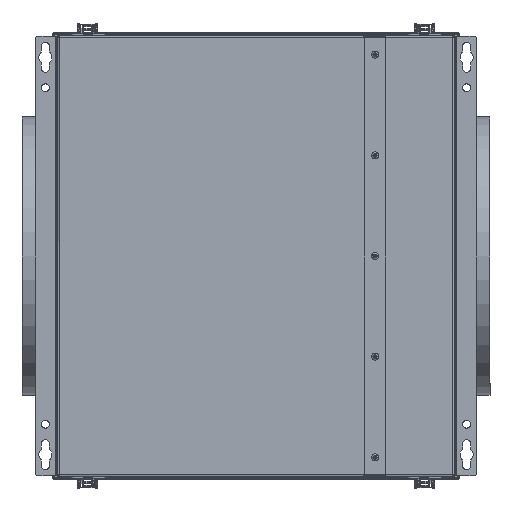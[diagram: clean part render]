
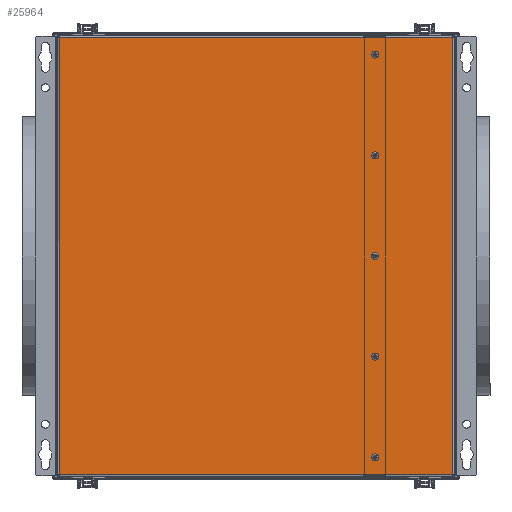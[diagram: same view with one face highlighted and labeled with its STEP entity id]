
A CAD part, front view. The second image highlights one B-rep face of the part: STEP entity #25964.
In plain terms, the highlighted planar face has unit normal (0, -1, 0).
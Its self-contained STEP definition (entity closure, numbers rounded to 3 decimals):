
#187 = CARTESIAN_POINT ( 'NONE',  ( 135., 0., 225.9 ) ) ;
#188 = LINE ( 'NONE', #2569, #22131 ) ;
#561 = CIRCLE ( 'NONE', #9976, 2.1 ) ;
#794 = DIRECTION ( 'NONE',  ( 0., 0., -1. ) ) ;
#1052 = ORIENTED_EDGE ( 'NONE', *, *, #13243, .F. ) ;
#1182 = CIRCLE ( 'NONE', #19549, 2.1 ) ;
#1411 = EDGE_LOOP ( 'NONE', ( #10846, #1052 ) ) ;
#1546 = ORIENTED_EDGE ( 'NONE', *, *, #24804, .T. ) ;
#1884 = VECTOR ( 'NONE', #13376, 1000. ) ;
#2045 = DIRECTION ( 'NONE',  ( 0., -1., 0. ) ) ;
#2449 = DIRECTION ( 'NONE',  ( 0., -1., 0. ) ) ;
#2569 = CARTESIAN_POINT ( 'NONE',  ( 225., 0., 248. ) ) ;
#2570 = CIRCLE ( 'NONE', #16979, 2.1 ) ;
#2608 = CARTESIAN_POINT ( 'NONE',  ( -223., 0., -248. ) ) ;
#2618 = VERTEX_POINT ( 'NONE', #3406 ) ;
#2653 = CIRCLE ( 'NONE', #24820, 2.1 ) ;
#2891 = LINE ( 'NONE', #11370, #24783 ) ;
#2899 = DIRECTION ( 'NONE',  ( 0., -1., 0. ) ) ;
#3231 = AXIS2_PLACEMENT_3D ( 'NONE', #10128, #25010, #12348 ) ;
#3392 = EDGE_LOOP ( 'NONE', ( #18688, #1546, #27448, #22946 ) ) ;
#3406 = CARTESIAN_POINT ( 'NONE',  ( -223., 0., 248. ) ) ;
#3634 = EDGE_CURVE ( 'NONE', #7169, #13588, #8043, .T. ) ;
#3814 = CARTESIAN_POINT ( 'NONE',  ( 135., 0., 0. ) ) ;
#3834 = CARTESIAN_POINT ( 'NONE',  ( 135., 0., 114. ) ) ;
#4417 = CARTESIAN_POINT ( 'NONE',  ( 135., 0., 2.1 ) ) ;
#5569 = FACE_BOUND ( 'NONE', #1411, .T. ) ;
#5903 = PLANE ( 'NONE',  #3231 ) ;
#5950 = DIRECTION ( 'NONE',  ( 0., 0., -1. ) ) ;
#5976 = DIRECTION ( 'NONE',  ( 0., 0., -1. ) ) ;
#6265 = FACE_BOUND ( 'NONE', #9629, .T. ) ;
#6280 = VERTEX_POINT ( 'NONE', #8751 ) ;
#6343 = EDGE_CURVE ( 'NONE', #13165, #8349, #7546, .T. ) ;
#6496 = VERTEX_POINT ( 'NONE', #13995 ) ;
#6622 = AXIS2_PLACEMENT_3D ( 'NONE', #12346, #27118, #14459 ) ;
#6673 = VECTOR ( 'NONE', #23282, 1000. ) ;
#6935 = FACE_OUTER_BOUND ( 'NONE', #3392, .T. ) ;
#6997 = EDGE_LOOP ( 'NONE', ( #16361, #11293 ) ) ;
#7169 = VERTEX_POINT ( 'NONE', #16849 ) ;
#7382 = EDGE_CURVE ( 'NONE', #21352, #12289, #2653, .T. ) ;
#7497 = ORIENTED_EDGE ( 'NONE', *, *, #17823, .F. ) ;
#7546 = LINE ( 'NONE', #21810, #1884 ) ;
#8043 = CIRCLE ( 'NONE', #9955, 2.1 ) ;
#8349 = VERTEX_POINT ( 'NONE', #22787 ) ;
#8389 = CARTESIAN_POINT ( 'NONE',  ( 135., 0., -228. ) ) ;
#8453 = CARTESIAN_POINT ( 'NONE',  ( 135., 0., 228. ) ) ;
#8751 = CARTESIAN_POINT ( 'NONE',  ( 135., 0., -111.9 ) ) ;
#8776 = CARTESIAN_POINT ( 'NONE',  ( 135., 0., 0. ) ) ;
#9219 = ORIENTED_EDGE ( 'NONE', *, *, #11336, .F. ) ;
#9629 = EDGE_LOOP ( 'NONE', ( #17615, #13189 ) ) ;
#9955 = AXIS2_PLACEMENT_3D ( 'NONE', #15916, #2899, #10044 ) ;
#9976 = AXIS2_PLACEMENT_3D ( 'NONE', #8453, #23254, #10586 ) ;
#10044 = DIRECTION ( 'NONE',  ( 0., 0., -1. ) ) ;
#10096 = ORIENTED_EDGE ( 'NONE', *, *, #26340, .F. ) ;
#10128 = CARTESIAN_POINT ( 'NONE',  ( -225., 0., 250. ) ) ;
#10526 = DIRECTION ( 'NONE',  ( 0., 0., -1. ) ) ;
#10586 = DIRECTION ( 'NONE',  ( 0., 0., -1. ) ) ;
#10846 = ORIENTED_EDGE ( 'NONE', *, *, #13664, .F. ) ;
#10918 = DIRECTION ( 'NONE',  ( 0., 0., -1. ) ) ;
#11026 = LINE ( 'NONE', #14853, #6673 ) ;
#11061 = VERTEX_POINT ( 'NONE', #14181 ) ;
#11280 = FACE_BOUND ( 'NONE', #6997, .T. ) ;
#11293 = ORIENTED_EDGE ( 'NONE', *, *, #7382, .F. ) ;
#11336 = EDGE_CURVE ( 'NONE', #23302, #18568, #1182, .T. ) ;
#11370 = CARTESIAN_POINT ( 'NONE',  ( -223., 0., 248. ) ) ;
#11743 = EDGE_CURVE ( 'NONE', #6496, #12704, #18794, .T. ) ;
#12126 = AXIS2_PLACEMENT_3D ( 'NONE', #8776, #23575, #10918 ) ;
#12289 = VERTEX_POINT ( 'NONE', #19537 ) ;
#12346 = CARTESIAN_POINT ( 'NONE',  ( 135., 0., -114. ) ) ;
#12348 = DIRECTION ( 'NONE',  ( 0., 0., 1. ) ) ;
#12450 = CIRCLE ( 'NONE', #12126, 2.1 ) ;
#12674 = EDGE_CURVE ( 'NONE', #12289, #21352, #12450, .T. ) ;
#12704 = VERTEX_POINT ( 'NONE', #187 ) ;
#13165 = VERTEX_POINT ( 'NONE', #20243 ) ;
#13189 = ORIENTED_EDGE ( 'NONE', *, *, #11743, .F. ) ;
#13243 = EDGE_CURVE ( 'NONE', #6280, #11061, #17760, .T. ) ;
#13376 = DIRECTION ( 'NONE',  ( 0., 0., 1. ) ) ;
#13522 = DIRECTION ( 'NONE',  ( 0., -1., 0. ) ) ;
#13588 = VERTEX_POINT ( 'NONE', #14169 ) ;
#13664 = EDGE_CURVE ( 'NONE', #11061, #6280, #19082, .T. ) ;
#13995 = CARTESIAN_POINT ( 'NONE',  ( 135., 0., 230.1 ) ) ;
#14169 = CARTESIAN_POINT ( 'NONE',  ( 135., 0., 111.9 ) ) ;
#14181 = CARTESIAN_POINT ( 'NONE',  ( 135., 0., -116.1 ) ) ;
#14459 = DIRECTION ( 'NONE',  ( 0., 0., -1. ) ) ;
#14751 = EDGE_LOOP ( 'NONE', ( #7497, #9219 ) ) ;
#14787 = CARTESIAN_POINT ( 'NONE',  ( 135., 0., -114. ) ) ;
#14853 = CARTESIAN_POINT ( 'NONE',  ( -225., 0., -248. ) ) ;
#15019 = VERTEX_POINT ( 'NONE', #2608 ) ;
#15186 = CARTESIAN_POINT ( 'NONE',  ( 135., 0., 228. ) ) ;
#15916 = CARTESIAN_POINT ( 'NONE',  ( 135., 0., 114. ) ) ;
#16199 = AXIS2_PLACEMENT_3D ( 'NONE', #14787, #2045, #16914 ) ;
#16361 = ORIENTED_EDGE ( 'NONE', *, *, #12674, .F. ) ;
#16849 = CARTESIAN_POINT ( 'NONE',  ( 135., 0., 116.1 ) ) ;
#16902 = FACE_BOUND ( 'NONE', #22967, .T. ) ;
#16914 = DIRECTION ( 'NONE',  ( 0., 0., -1. ) ) ;
#16979 = AXIS2_PLACEMENT_3D ( 'NONE', #3834, #18718, #5976 ) ;
#17087 = AXIS2_PLACEMENT_3D ( 'NONE', #15186, #2449, #17323 ) ;
#17323 = DIRECTION ( 'NONE',  ( 0., 0., -1. ) ) ;
#17615 = ORIENTED_EDGE ( 'NONE', *, *, #23665, .F. ) ;
#17760 = CIRCLE ( 'NONE', #16199, 2.1 ) ;
#17823 = EDGE_CURVE ( 'NONE', #18568, #23302, #27419, .T. ) ;
#18019 = EDGE_CURVE ( 'NONE', #8349, #2618, #188, .T. ) ;
#18568 = VERTEX_POINT ( 'NONE', #20095 ) ;
#18688 = ORIENTED_EDGE ( 'NONE', *, *, #24399, .T. ) ;
#18691 = DIRECTION ( 'NONE',  ( 0., -1., 0. ) ) ;
#18718 = DIRECTION ( 'NONE',  ( 0., -1., 0. ) ) ;
#18794 = CIRCLE ( 'NONE', #17087, 2.1 ) ;
#19082 = CIRCLE ( 'NONE', #6622, 2.1 ) ;
#19537 = CARTESIAN_POINT ( 'NONE',  ( 135., 0., -2.1 ) ) ;
#19549 = AXIS2_PLACEMENT_3D ( 'NONE', #26199, #13522, #794 ) ;
#19565 = ORIENTED_EDGE ( 'NONE', *, *, #3634, .F. ) ;
#19579 = DIRECTION ( 'NONE',  ( -1., 0., 0. ) ) ;
#20095 = CARTESIAN_POINT ( 'NONE',  ( 135., 0., -230.1 ) ) ;
#20243 = CARTESIAN_POINT ( 'NONE',  ( 223., 0., -248. ) ) ;
#21352 = VERTEX_POINT ( 'NONE', #4417 ) ;
#21810 = CARTESIAN_POINT ( 'NONE',  ( 223., 0., -248. ) ) ;
#21833 = CARTESIAN_POINT ( 'NONE',  ( 135., 0., -225.9 ) ) ;
#22131 = VECTOR ( 'NONE', #19579, 1000. ) ;
#22787 = CARTESIAN_POINT ( 'NONE',  ( 223., 0., 248. ) ) ;
#22946 = ORIENTED_EDGE ( 'NONE', *, *, #18019, .T. ) ;
#22967 = EDGE_LOOP ( 'NONE', ( #10096, #19565 ) ) ;
#23182 = DIRECTION ( 'NONE',  ( 0., -1., 0. ) ) ;
#23254 = DIRECTION ( 'NONE',  ( 0., -1., 0. ) ) ;
#23282 = DIRECTION ( 'NONE',  ( 1., 0., 0. ) ) ;
#23302 = VERTEX_POINT ( 'NONE', #21833 ) ;
#23575 = DIRECTION ( 'NONE',  ( 0., -1., 0. ) ) ;
#23665 = EDGE_CURVE ( 'NONE', #12704, #6496, #561, .T. ) ;
#24399 = EDGE_CURVE ( 'NONE', #2618, #15019, #2891, .T. ) ;
#24783 = VECTOR ( 'NONE', #26144, 1000. ) ;
#24804 = EDGE_CURVE ( 'NONE', #15019, #13165, #11026, .T. ) ;
#24820 = AXIS2_PLACEMENT_3D ( 'NONE', #3814, #18691, #5950 ) ;
#25010 = DIRECTION ( 'NONE',  ( 0., 1., 0. ) ) ;
#25383 = AXIS2_PLACEMENT_3D ( 'NONE', #8389, #23182, #10526 ) ;
#25964 = ADVANCED_FACE ( 'NONE', ( #16902, #6265, #6935, #11280, #5569, #27484 ), #5903, .F. ) ;
#26144 = DIRECTION ( 'NONE',  ( 0., 0., -1. ) ) ;
#26199 = CARTESIAN_POINT ( 'NONE',  ( 135., 0., -228. ) ) ;
#26340 = EDGE_CURVE ( 'NONE', #13588, #7169, #2570, .T. ) ;
#27118 = DIRECTION ( 'NONE',  ( 0., -1., 0. ) ) ;
#27419 = CIRCLE ( 'NONE', #25383, 2.1 ) ;
#27448 = ORIENTED_EDGE ( 'NONE', *, *, #6343, .T. ) ;
#27484 = FACE_BOUND ( 'NONE', #14751, .T. ) ;
